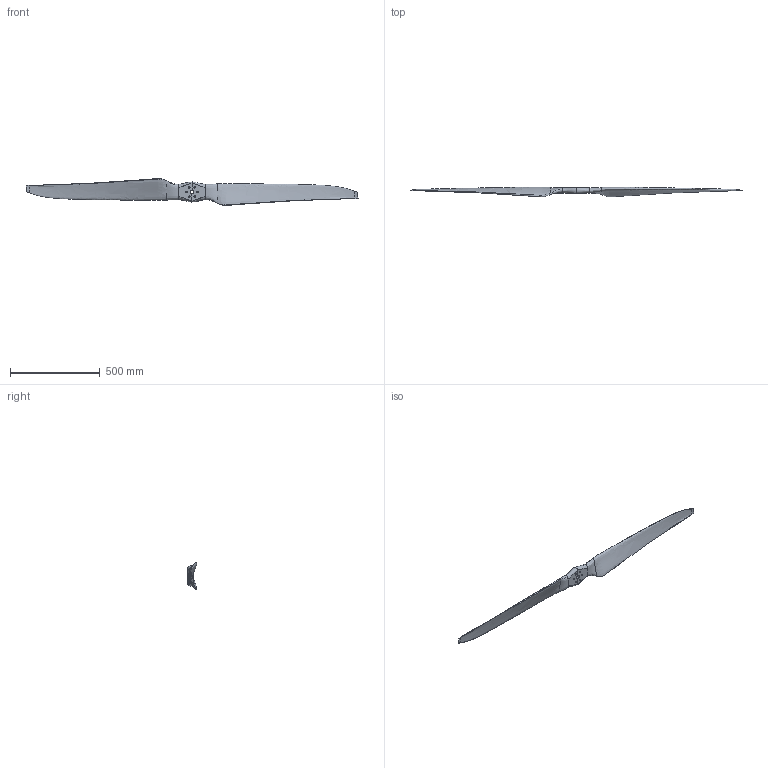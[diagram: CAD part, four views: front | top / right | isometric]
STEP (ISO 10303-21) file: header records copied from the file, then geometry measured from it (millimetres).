
FILE_DESCRIPTION (( 'STEP AP214' ), '1' );
FILE_NAME ('直桨-73×25-CW-MP(对外).STEP', '2026-02-24T12:05:22', ( '' ), ( '' ), 'SwSTEP 2.0', 'SolidWorks 2021', '' );
FILE_SCHEMA (( 'AUTOMOTIVE_DESIGN' ));
Length unit declared in the file: millimetre
Products named in the file (1): 直桨-73×25-CW-MP(对外)
Bounding box: 1854.2 x 54.4 x 149.69 mm (x, y, z)
Volume: 2485424.3 mm3; surface area: 377367.1 mm2
Topology: 1 solids, 1 shells, 31 faces, 85 edges, 54 vertices
Faces by surface type: bspline 22, cylinder 7, plane 2
Full cylindrical faces by diameter (mm): 8.3 x6, 20 x1
Entity records: 49744 total; most frequent: CARTESIAN_POINT 49132, ORIENTED_EDGE 152, EDGE_CURVE 76, B_SPLINE_CURVE_WITH_KNOTS 66, VERTEX_POINT 52, EDGE_LOOP 50, FACE_OUTER_BOUND 38, DIRECTION 38
